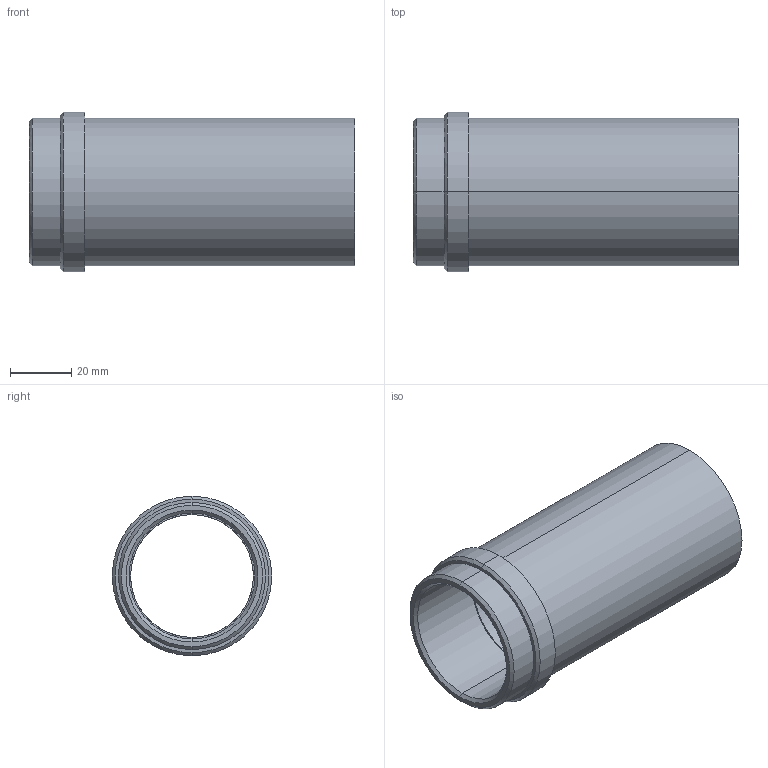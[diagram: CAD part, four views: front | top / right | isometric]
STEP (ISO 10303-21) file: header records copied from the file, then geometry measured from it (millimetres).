
FILE_DESCRIPTION(('CATIA V5 STEP Exchange'),'2;1');
FILE_NAME('C:\Users\Utente\Desktop\IO LAVORO\3D X SITO CF\X SITO\PLASTICA\358\358-40x106.stp','2021-04-09T14:52:53+00:00',('none'),('none'),'CATIA Version 5 Release 20 GA (IN-10)','CATIA V5 STEP AP203','none');
FILE_SCHEMA(('CONFIG_CONTROL_DESIGN'));
Length unit declared in the file: millimetre
Products named in the file (1): 358-40X106
Bounding box: 106 x 52 x 52 mm (x, y, z)
Volume: 59138.1 mm3; surface area: 30854.3 mm2
Topology: 1 solids, 1 shells, 23 faces, 74 edges, 56 vertices
Faces by surface type: cylinder 10, cone 6, plane 5, torus 2
Entity records: 1066 total; most frequent: CARTESIAN_POINT 378, ORIENTED_EDGE 148, DIRECTION 104, EDGE_CURVE 74, AXIS2_PLACEMENT_3D 66, VERTEX_POINT 56, CIRCLE 42, EDGE_LOOP 28
